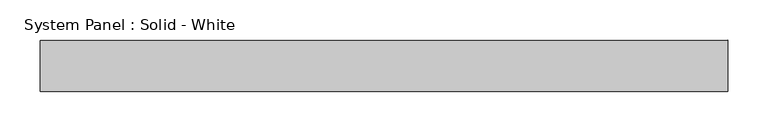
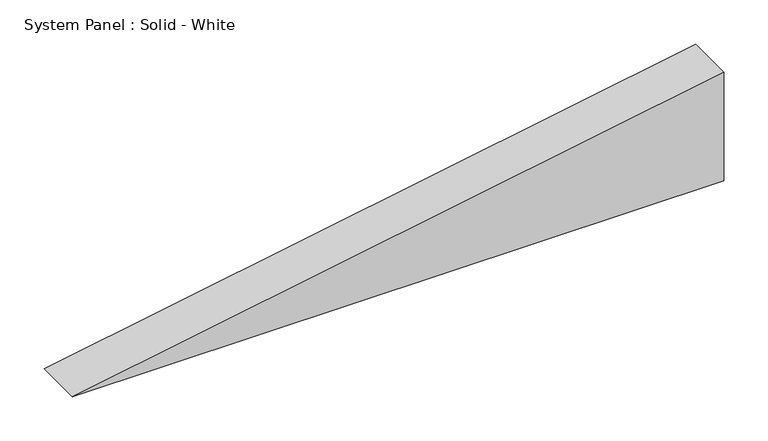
"""IFC4 building model written with IfcOpenShell, lengths in millimetres: plate geometry, System Panel : Solid - White."""

from ifc_helpers import new_model, si_unit, frame, origin, place, context, project, spatial, polyline, outline, extrude, source, transform, mapped, element, save


def system_panel_solid_white_c78bf428(model_context):
    return source(origin(), model_context, "Body", "SweptSolid", [
        extrude(outline(polyline([(0.0, -424.2190373), (0.0, 424.2190373), (149.602524, 424.2190373), (0.0, -424.2190373)])), frame((0.0, -19.05, 0.0), z_axis=(0.0, 1.0, 0.0), x_axis=(0.0, 0.0, 1.0)), (0.0, 0.0, 1.0), 63.5),
    ])


if __name__ == "__main__":
    model = new_model("IFC4")
    model_context = context("Model", 3, world=origin())
    ifc_project = project(units=[si_unit("LENGTHUNIT", "METRE", prefix="MILLI")], contexts=[model_context])
    site = spatial("IfcSite", under=ifc_project)
    building = spatial("IfcBuilding", under=site)
    placement = place(None, origin())
    system_panel_solid_white_shape = system_panel_solid_white_c78bf428(model_context)
    element("IfcPlate", 1, ObjectType="System Panel : Solid - White", at=placement, inside=building, context=model_context, shape_type="MappedRepresentation", body=[
        mapped(system_panel_solid_white_shape, transform((0.0, 0.0, 0.0), x_axis=(1.0, 0.0, 0.0), y_axis=(0.0, 1.0, 0.0), z_axis=(0.0, 0.0, 1.0))),
    ])
    save(model, "model.ifc")
